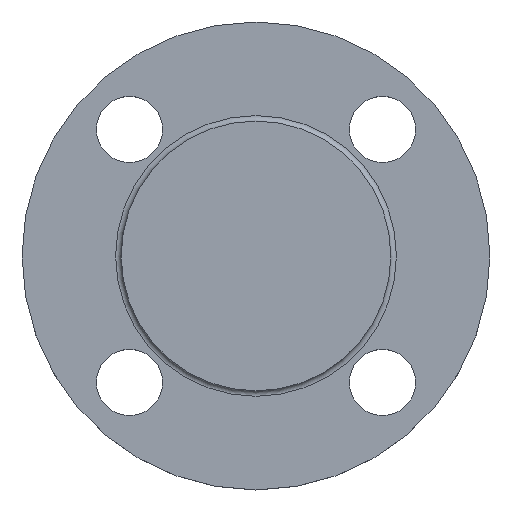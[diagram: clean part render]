
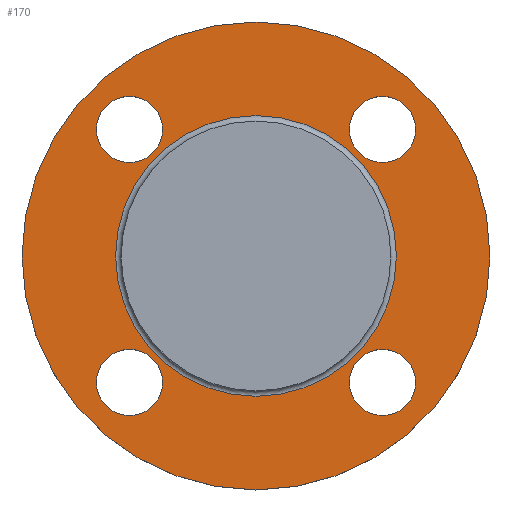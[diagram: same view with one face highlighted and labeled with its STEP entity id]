
A CAD part, top view. The second image highlights one B-rep face of the part: STEP entity #170.
In plain terms, the highlighted planar face has unit normal (0, 0, 1).
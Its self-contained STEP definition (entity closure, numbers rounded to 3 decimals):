
#30=FACE_BOUND('',#53,.T.);
#31=FACE_BOUND('',#54,.T.);
#32=FACE_BOUND('',#55,.T.);
#33=FACE_BOUND('',#56,.T.);
#34=FACE_BOUND('',#57,.T.);
#39=PLANE('',#204);
#43=FACE_OUTER_BOUND('',#52,.T.);
#52=EDGE_LOOP('',(#130,#131));
#53=EDGE_LOOP('',(#132));
#54=EDGE_LOOP('',(#133));
#55=EDGE_LOOP('',(#134));
#56=EDGE_LOOP('',(#135));
#57=EDGE_LOOP('',(#136,#137));
#69=CIRCLE('',#199,25.5);
#73=CIRCLE('',#203,25.5);
#74=CIRCLE('',#205,42.5);
#75=CIRCLE('',#206,42.5);
#76=CIRCLE('',#207,6.);
#77=CIRCLE('',#208,6.);
#78=CIRCLE('',#209,6.);
#79=CIRCLE('',#210,6.);
#86=VERTEX_POINT('',#285);
#87=VERTEX_POINT('',#286);
#90=VERTEX_POINT('',#295);
#91=VERTEX_POINT('',#296);
#92=VERTEX_POINT('',#299);
#93=VERTEX_POINT('',#301);
#94=VERTEX_POINT('',#303);
#95=VERTEX_POINT('',#305);
#102=EDGE_CURVE('',#86,#87,#69,.T.);
#106=EDGE_CURVE('',#87,#86,#73,.T.);
#107=EDGE_CURVE('',#90,#91,#74,.T.);
#108=EDGE_CURVE('',#91,#90,#75,.T.);
#109=EDGE_CURVE('',#92,#92,#76,.T.);
#110=EDGE_CURVE('',#93,#93,#77,.T.);
#111=EDGE_CURVE('',#94,#94,#78,.T.);
#112=EDGE_CURVE('',#95,#95,#79,.T.);
#130=ORIENTED_EDGE('',*,*,#107,.F.);
#131=ORIENTED_EDGE('',*,*,#108,.F.);
#132=ORIENTED_EDGE('',*,*,#109,.F.);
#133=ORIENTED_EDGE('',*,*,#110,.F.);
#134=ORIENTED_EDGE('',*,*,#111,.F.);
#135=ORIENTED_EDGE('',*,*,#112,.F.);
#136=ORIENTED_EDGE('',*,*,#102,.F.);
#137=ORIENTED_EDGE('',*,*,#106,.F.);
#170=ADVANCED_FACE('',(#43,#30,#31,#32,#33,#34),#39,.T.);
#199=AXIS2_PLACEMENT_3D('',#287,#228,#229);
#203=AXIS2_PLACEMENT_3D('',#293,#236,#237);
#204=AXIS2_PLACEMENT_3D('',#294,#238,#239);
#205=AXIS2_PLACEMENT_3D('',#297,#240,#241);
#206=AXIS2_PLACEMENT_3D('',#298,#242,#243);
#207=AXIS2_PLACEMENT_3D('',#300,#244,#245);
#208=AXIS2_PLACEMENT_3D('',#302,#246,#247);
#209=AXIS2_PLACEMENT_3D('',#304,#248,#249);
#210=AXIS2_PLACEMENT_3D('',#306,#250,#251);
#228=DIRECTION('center_axis',(0.,0.,1.));
#229=DIRECTION('ref_axis',(-1.,0.,0.));
#236=DIRECTION('center_axis',(0.,0.,1.));
#237=DIRECTION('ref_axis',(-1.,0.,0.));
#238=DIRECTION('center_axis',(0.,0.,1.));
#239=DIRECTION('ref_axis',(1.,0.,0.));
#240=DIRECTION('center_axis',(0.,0.,-1.));
#241=DIRECTION('ref_axis',(1.,0.,0.));
#242=DIRECTION('center_axis',(0.,0.,-1.));
#243=DIRECTION('ref_axis',(1.,0.,0.));
#244=DIRECTION('center_axis',(0.,0.,1.));
#245=DIRECTION('ref_axis',(1.,0.,0.));
#246=DIRECTION('center_axis',(0.,0.,1.));
#247=DIRECTION('ref_axis',(0.,1.,0.));
#248=DIRECTION('center_axis',(0.,0.,1.));
#249=DIRECTION('ref_axis',(-1.,0.,0.));
#250=DIRECTION('center_axis',(0.,0.,1.));
#251=DIRECTION('ref_axis',(0.,-1.,0.));
#285=CARTESIAN_POINT('',(25.5,0.,9.));
#286=CARTESIAN_POINT('',(-25.5,0.,9.));
#287=CARTESIAN_POINT('Origin',(0.,0.,9.));
#293=CARTESIAN_POINT('Origin',(0.,0.,9.));
#294=CARTESIAN_POINT('Origin',(0.,0.,9.));
#295=CARTESIAN_POINT('',(42.5,0.,9.));
#296=CARTESIAN_POINT('',(-42.5,0.,9.));
#297=CARTESIAN_POINT('Origin',(0.,0.,9.));
#298=CARTESIAN_POINT('Origin',(0.,0.,9.));
#299=CARTESIAN_POINT('',(-28.981,22.981,9.));
#300=CARTESIAN_POINT('Origin',(-22.981,22.981,9.));
#301=CARTESIAN_POINT('',(-22.981,-28.981,9.));
#302=CARTESIAN_POINT('Origin',(-22.981,-22.981,9.));
#303=CARTESIAN_POINT('',(28.981,-22.981,9.));
#304=CARTESIAN_POINT('Origin',(22.981,-22.981,9.));
#305=CARTESIAN_POINT('',(22.981,28.981,9.));
#306=CARTESIAN_POINT('Origin',(22.981,22.981,9.));
